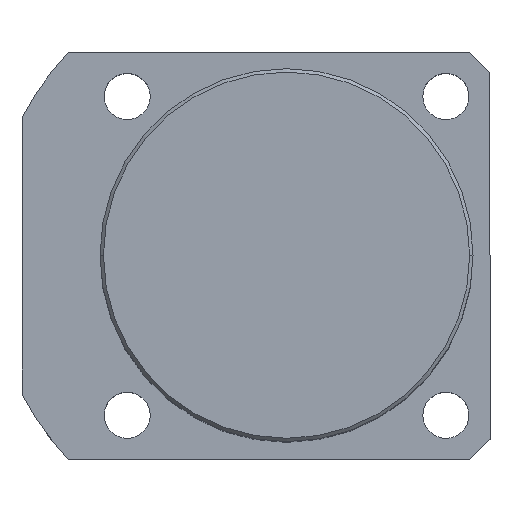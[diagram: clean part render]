
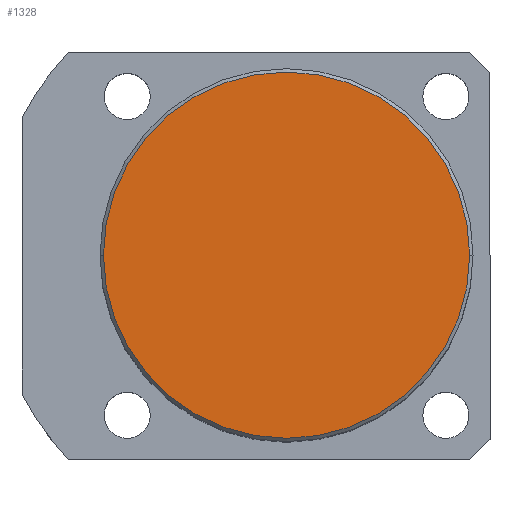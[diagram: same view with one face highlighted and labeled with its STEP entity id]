
A CAD part, top view. The second image highlights one B-rep face of the part: STEP entity #1328.
In plain terms, the highlighted planar face has unit normal (0, 0, 1).
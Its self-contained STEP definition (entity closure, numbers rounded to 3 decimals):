
#29 = DIRECTION ( 'NONE',  ( 1., 0., 0. ) ) ;
#30 = CARTESIAN_POINT ( 'NONE',  ( 27., 0., 70. ) ) ;
#120 = EDGE_LOOP ( 'NONE', ( #525, #598 ) ) ;
#489 = AXIS2_PLACEMENT_3D ( 'NONE', #1445, #1744, #1753 ) ;
#499 = PLANE ( 'NONE',  #1891 ) ;
#509 = EDGE_CURVE ( 'NONE', #772, #760, #634, .T. ) ;
#525 = ORIENTED_EDGE ( 'NONE', *, *, #509, .T. ) ;
#531 = DIRECTION ( 'NONE',  ( 1., 0., 0. ) ) ;
#558 = AXIS2_PLACEMENT_3D ( 'NONE', #974, #1737, #531 ) ;
#598 = ORIENTED_EDGE ( 'NONE', *, *, #1936, .T. ) ;
#624 = FACE_OUTER_BOUND ( 'NONE', #120, .T. ) ;
#634 = CIRCLE ( 'NONE', #558, 27. ) ;
#760 = VERTEX_POINT ( 'NONE', #30 ) ;
#772 = VERTEX_POINT ( 'NONE', #1540 ) ;
#974 = CARTESIAN_POINT ( 'NONE',  ( 0., 0., 70. ) ) ;
#1096 = DIRECTION ( 'NONE',  ( 0., 0., 1. ) ) ;
#1328 = ADVANCED_FACE ( 'NONE', ( #624 ), #499, .T. ) ;
#1445 = CARTESIAN_POINT ( 'NONE',  ( 0., 0., 70. ) ) ;
#1540 = CARTESIAN_POINT ( 'NONE',  ( -27., 0., 70. ) ) ;
#1702 = CARTESIAN_POINT ( 'NONE',  ( 0., 0., 70. ) ) ;
#1737 = DIRECTION ( 'NONE',  ( 0., 0., 1. ) ) ;
#1744 = DIRECTION ( 'NONE',  ( 0., 0., 1. ) ) ;
#1751 = CIRCLE ( 'NONE', #489, 27. ) ;
#1753 = DIRECTION ( 'NONE',  ( 1., 0., 0. ) ) ;
#1891 = AXIS2_PLACEMENT_3D ( 'NONE', #1702, #1096, #29 ) ;
#1936 = EDGE_CURVE ( 'NONE', #760, #772, #1751, .T. ) ;
